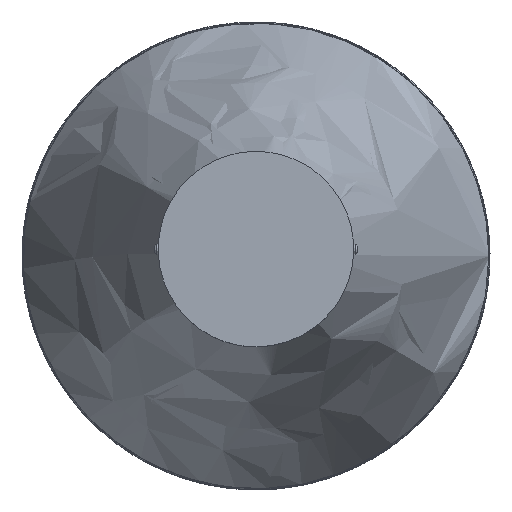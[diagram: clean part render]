
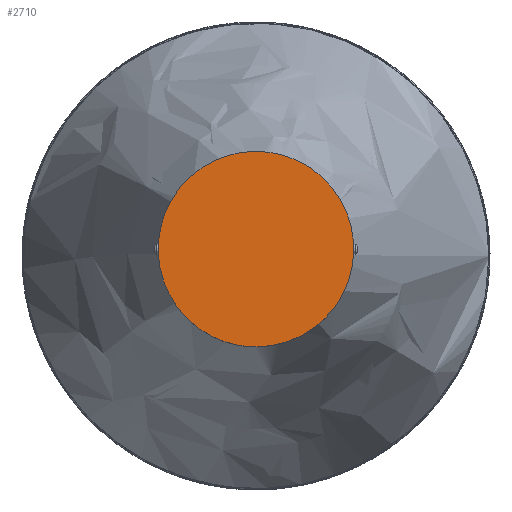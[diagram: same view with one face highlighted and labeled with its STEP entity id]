
A CAD part, top view. The second image highlights one B-rep face of the part: STEP entity #2710.
In plain terms, the highlighted free-form (B-spline) face has degree [1, 1] with [2, 2] control points.
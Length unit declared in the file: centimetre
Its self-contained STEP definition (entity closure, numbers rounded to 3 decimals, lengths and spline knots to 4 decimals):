
#2659 = CARTESIAN_POINT ('', (0., -5., 200.));
#2660 = VERTEX_POINT ('', #2659);
#2661 = CARTESIAN_POINT ('', (0., -5., 200.));
#2662 = CARTESIAN_POINT ('', (5., -5., 200.));
#2663 = CARTESIAN_POINT ('', (5., 0., 200.));
#2664 = CARTESIAN_POINT ('', (5., 5., 200.));
#2665 = CARTESIAN_POINT ('', (0., 5., 200.));
#2666 = CARTESIAN_POINT ('', (-5., 5., 200.));
#2667 = CARTESIAN_POINT ('', (-5., 0., 200.));
#2668 = CARTESIAN_POINT ('', (-5., -5., 200.));
#2669 = CARTESIAN_POINT ('', (0., -5., 200.));
#2670 = (
   BOUNDED_CURVE ()
   B_SPLINE_CURVE (2, (#2661, #2662, #2663, #2664, #2665, #2666, #2667, #2668, #2669), .UNSPECIFIED., .T., .U.)
   B_SPLINE_CURVE_WITH_KNOTS ((3, 2, 2, 2, 3), (0., 0.25, 0.5, 0.75, 1.), .UNSPECIFIED.)
   CURVE ()
   GEOMETRIC_REPRESENTATION_ITEM ()
   RATIONAL_B_SPLINE_CURVE ((1., 0.707, 1., 0.707, 1., 0.707, 1., 0.707, 1.))
   REPRESENTATION_ITEM ('')
);
#2671 = EDGE_CURVE ('', #2660, #2660, #2670, .T.);
#2702 = ORIENTED_EDGE ('', *, *, #2671, .T.);
#2703 = EDGE_LOOP ('', (#2702));
#2704 = FACE_OUTER_BOUND ('', #2703, .T.);
#2705 = CARTESIAN_POINT ('', (-14.2247, -14.6698, 200.));
#2706 = CARTESIAN_POINT ('', (-14.2247, 15.0286, 200.));
#2707 = CARTESIAN_POINT ('', (15.4738, -14.6698, 200.));
#2708 = CARTESIAN_POINT ('', (15.4738, 15.0286, 200.));
#2709 = B_SPLINE_SURFACE_WITH_KNOTS ('', 1, 1, ((#2705, #2706), (#2707, #2708)), .UNSPECIFIED., .F., .F., .U., (2, 2), (2, 2), (0., 1.), (0., 1.), .UNSPECIFIED.);
#2710 = ADVANCED_FACE ('', (#2704), #2709, .T.);
